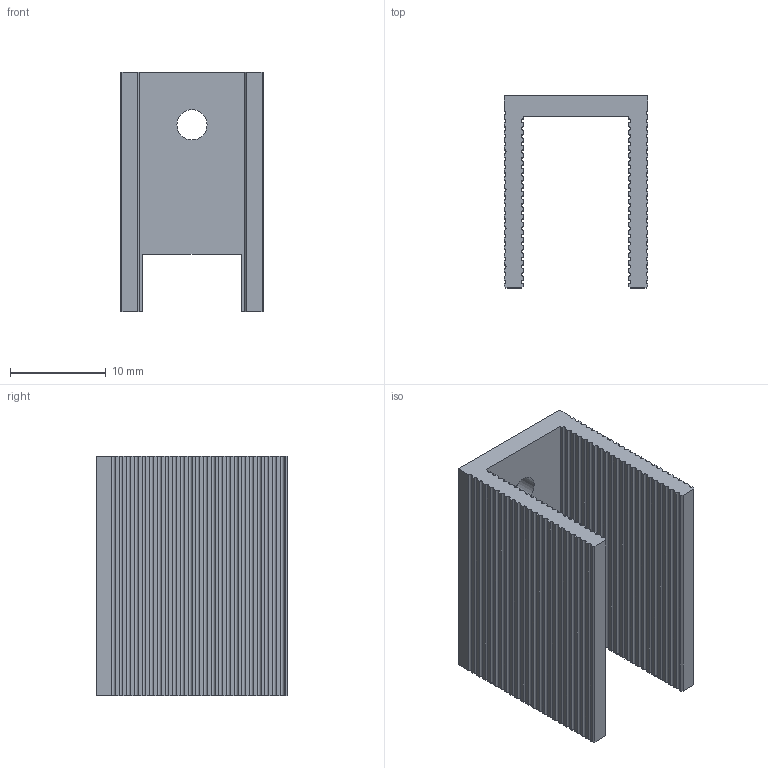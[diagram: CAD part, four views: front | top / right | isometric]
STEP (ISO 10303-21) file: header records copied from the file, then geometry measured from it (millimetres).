
FILE_DESCRIPTION (( 'STEP AP214' ), '1' );
FILE_NAME ('User Library-ML26AAG.STEP', '2019-05-08T16:43:59', ( '' ), ( '' ), 'SwSTEP 2.0', 'SolidWorks 2019', '' );
FILE_SCHEMA (( 'AUTOMOTIVE_DESIGN' ));
Length unit declared in the file: millimetre
Products named in the file (1): User Library-ML26AAG
Bounding box: 15 x 20 x 25 mm (x, y, z)
Volume: 2298.3 mm3; surface area: 3248.2 mm2
Topology: 1 solids, 1 shells, 245 faces, 729 edges, 486 vertices
Faces by surface type: cylinder 137, plane 108
Entity records: 11050 total; most frequent: DIRECTION 1495, CARTESIAN_POINT 1461, ORIENTED_EDGE 1458, EDGE_CURVE 729, AXIS2_PLACEMENT_3D 520, VERTEX_POINT 486, VECTOR 455, LINE 455
